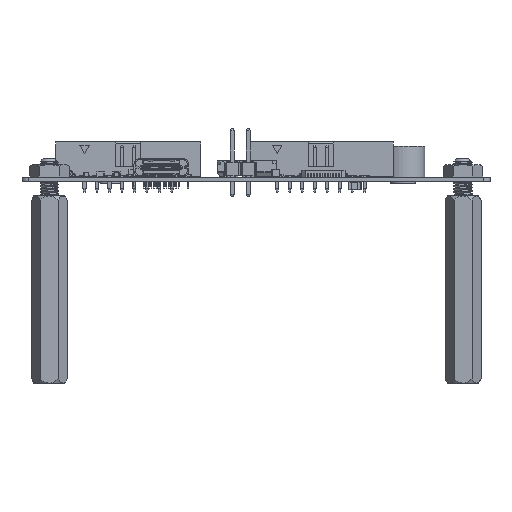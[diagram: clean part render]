
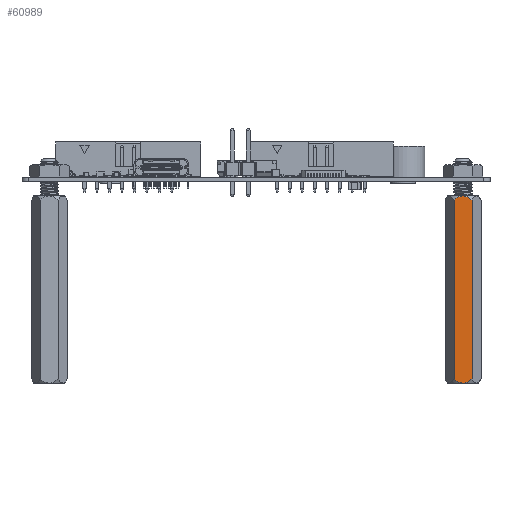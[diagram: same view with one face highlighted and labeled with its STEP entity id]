
A CAD part, left-side view. The second image highlights one B-rep face of the part: STEP entity #60989.
In plain terms, the highlighted planar face has unit normal (-1, 0, 0).
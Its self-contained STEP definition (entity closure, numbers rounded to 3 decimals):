
#60344 = VERTEX_POINT('',#60345);
#60345 = CARTESIAN_POINT('',(157.5,-1.443,-29.33));
#60355 = EDGE_CURVE('',#60344,#60356,#60358,.T.);
#60356 = VERTEX_POINT('',#60357);
#60357 = CARTESIAN_POINT('',(157.5,0.,-30.));
#60358 = B_SPLINE_CURVE_WITH_KNOTS('',3,(#60359,#60360,#60361,#60362),
  .UNSPECIFIED.,.F.,.F.,(4,4),(0.,1.67),
  .PIECEWISE_BEZIER_KNOTS.);
#60359 = CARTESIAN_POINT('',(157.5,-1.443,-29.33));
#60360 = CARTESIAN_POINT('',(157.5,-1.048,-29.673));
#60361 = CARTESIAN_POINT('',(157.5,-0.554,-30.));
#60362 = CARTESIAN_POINT('',(157.5,0.,-30.));
#60392 = EDGE_CURVE('',#60356,#60393,#60395,.T.);
#60393 = VERTEX_POINT('',#60394);
#60394 = CARTESIAN_POINT('',(157.5,1.443,-29.33));
#60395 = B_SPLINE_CURVE_WITH_KNOTS('',3,(#60396,#60397,#60398,#60399),
  .UNSPECIFIED.,.F.,.F.,(4,4),(0.291,1.961),
  .PIECEWISE_BEZIER_KNOTS.);
#60396 = CARTESIAN_POINT('',(157.5,0.,-30.));
#60397 = CARTESIAN_POINT('',(157.5,0.554,-30.));
#60398 = CARTESIAN_POINT('',(157.5,1.048,-29.673));
#60399 = CARTESIAN_POINT('',(157.5,1.443,-29.33));
#60804 = VERTEX_POINT('',#60805);
#60805 = CARTESIAN_POINT('',(157.5,0.,0.));
#60811 = EDGE_CURVE('',#60812,#60804,#60814,.T.);
#60812 = VERTEX_POINT('',#60813);
#60813 = CARTESIAN_POINT('',(157.5,-1.443,-0.67));
#60814 = B_SPLINE_CURVE_WITH_KNOTS('',3,(#60815,#60816,#60817,#60818),
  .UNSPECIFIED.,.F.,.F.,(4,4),(0.,1.67),
  .PIECEWISE_BEZIER_KNOTS.);
#60815 = CARTESIAN_POINT('',(157.5,-1.443,-0.67));
#60816 = CARTESIAN_POINT('',(157.5,-1.048,-0.327));
#60817 = CARTESIAN_POINT('',(157.5,-0.554,0.));
#60818 = CARTESIAN_POINT('',(157.5,0.,0.));
#60859 = VERTEX_POINT('',#60860);
#60860 = CARTESIAN_POINT('',(157.5,1.443,-0.67));
#60870 = EDGE_CURVE('',#60804,#60859,#60871,.T.);
#60871 = B_SPLINE_CURVE_WITH_KNOTS('',3,(#60872,#60873,#60874,#60875),
  .UNSPECIFIED.,.F.,.F.,(4,4),(0.291,1.961),
  .PIECEWISE_BEZIER_KNOTS.);
#60872 = CARTESIAN_POINT('',(157.5,0.,0.));
#60873 = CARTESIAN_POINT('',(157.5,0.554,0.));
#60874 = CARTESIAN_POINT('',(157.5,1.048,-0.327));
#60875 = CARTESIAN_POINT('',(157.5,1.443,-0.67));
#60900 = EDGE_CURVE('',#60812,#60344,#60901,.T.);
#60901 = B_SPLINE_CURVE_WITH_KNOTS('',1,(#60902,#60903),.UNSPECIFIED.,
  .F.,.F.,(2,2),(0.67,29.33),
  .PIECEWISE_BEZIER_KNOTS.);
#60902 = CARTESIAN_POINT('',(157.5,-1.443,-0.67));
#60903 = CARTESIAN_POINT('',(157.5,-1.443,-29.33));
#60980 = EDGE_CURVE('',#60859,#60393,#60981,.T.);
#60981 = B_SPLINE_CURVE_WITH_KNOTS('',1,(#60982,#60983),.UNSPECIFIED.,
  .F.,.F.,(2,2),(0.67,29.33),
  .PIECEWISE_BEZIER_KNOTS.);
#60982 = CARTESIAN_POINT('',(157.5,1.443,-0.67));
#60983 = CARTESIAN_POINT('',(157.5,1.443,-29.33));
#60989 = ADVANCED_FACE('',(#60990),#60998,.T.);
#60990 = FACE_BOUND('',#60991,.T.);
#60991 = EDGE_LOOP('',(#60992,#60993,#60994,#60995,#60996,#60997));
#60992 = ORIENTED_EDGE('',*,*,#60870,.T.);
#60993 = ORIENTED_EDGE('',*,*,#60980,.T.);
#60994 = ORIENTED_EDGE('',*,*,#60392,.F.);
#60995 = ORIENTED_EDGE('',*,*,#60355,.F.);
#60996 = ORIENTED_EDGE('',*,*,#60900,.F.);
#60997 = ORIENTED_EDGE('',*,*,#60811,.T.);
#60998 = PLANE('',#60999);
#60999 = AXIS2_PLACEMENT_3D('',#61000,#61001,#61002);
#61000 = CARTESIAN_POINT('',(157.5,-1.443,0.));
#61001 = DIRECTION('',(-1.,0.,0.));
#61002 = DIRECTION('',(0.,0.,-1.));
